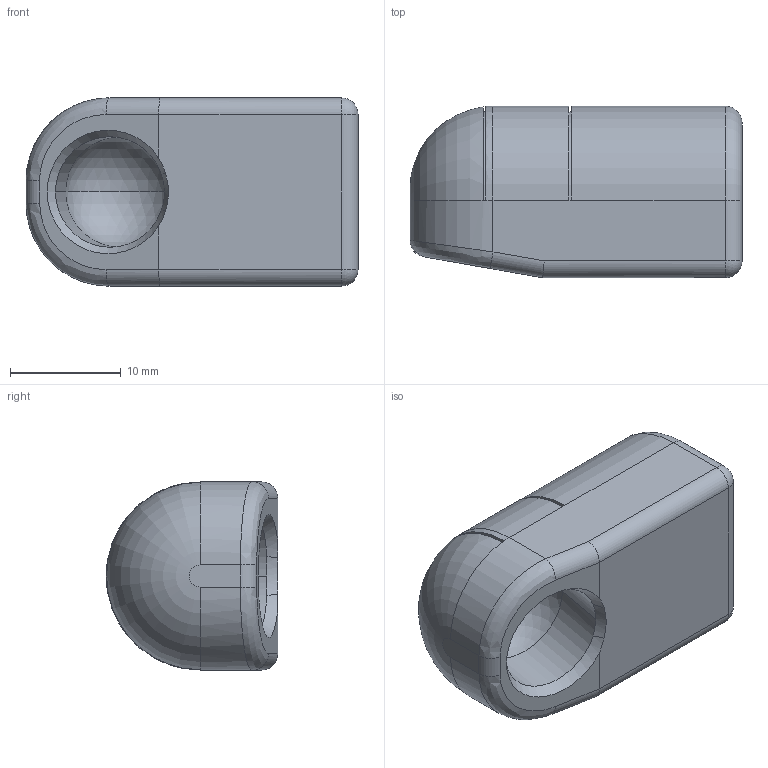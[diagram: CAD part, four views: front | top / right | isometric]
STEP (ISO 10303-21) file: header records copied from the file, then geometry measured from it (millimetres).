
FILE_DESCRIPTION (( 'STEP AP214' ), '1' );
FILE_NAME ('13.C10M8L18KNST.STEP', '2017-11-22T19:20:21', ( '' ), ( '' ), 'SwSTEP 2.0', 'SolidWorks 2016', '' );
FILE_SCHEMA (( 'AUTOMOTIVE_DESIGN' ));
Length unit declared in the file: millimetre
Products named in the file (1): 13.C10M8L18KNST
Bounding box: 30 x 15.5 x 17 mm (x, y, z)
Volume: 5140.8 mm3; surface area: 2447.3 mm2
Topology: 1 solids, 1 shells, 45 faces, 108 edges, 60 vertices
Faces by surface type: cylinder 18, plane 14, sphere 4, cone 3, torus 3, bspline 3
Entity records: 1450 total; most frequent: CARTESIAN_POINT 394, DIRECTION 214, ORIENTED_EDGE 200, EDGE_CURVE 100, AXIS2_PLACEMENT_3D 84, VERTEX_POINT 58, VECTOR 46, EDGE_LOOP 46
